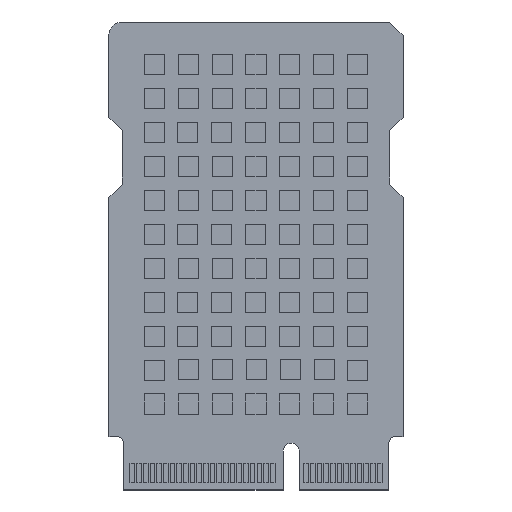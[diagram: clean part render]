
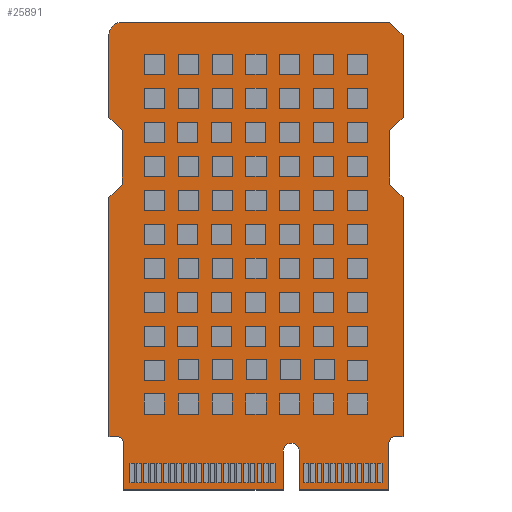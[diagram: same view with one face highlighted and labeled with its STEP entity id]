
A CAD part, top view. The second image highlights one B-rep face of the part: STEP entity #25891.
In plain terms, the highlighted planar face has unit normal (0, 0, 1).
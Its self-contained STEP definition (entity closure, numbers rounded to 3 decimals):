
#24954 = VERTEX_POINT('',#24955);
#24955 = CARTESIAN_POINT('',(146.25,-73.775,0.8));
#24961 = EDGE_CURVE('',#24954,#24962,#24964,.T.);
#24962 = VERTEX_POINT('',#24963);
#24963 = CARTESIAN_POINT('',(146.25,-79.895,0.8));
#24964 = LINE('',#24965,#24966);
#24965 = CARTESIAN_POINT('',(146.25,-73.775,0.8));
#24966 = VECTOR('',#24967,1.);
#24967 = DIRECTION('',(0.,-1.,0.));
#24992 = EDGE_CURVE('',#24962,#24993,#24995,.T.);
#24993 = VERTEX_POINT('',#24994);
#24994 = CARTESIAN_POINT('',(145.25,-80.895,0.8));
#24995 = LINE('',#24996,#24997);
#24996 = CARTESIAN_POINT('',(146.25,-79.895,0.8));
#24997 = VECTOR('',#24998,1.);
#24998 = DIRECTION('',(-0.707,-0.707,0.));
#25023 = EDGE_CURVE('',#24993,#25024,#25026,.T.);
#25024 = VERTEX_POINT('',#25025);
#25025 = CARTESIAN_POINT('',(145.25,-84.895,0.8));
#25026 = LINE('',#25027,#25028);
#25027 = CARTESIAN_POINT('',(145.25,-80.895,0.8));
#25028 = VECTOR('',#25029,1.);
#25029 = DIRECTION('',(0.,-1.,0.));
#25054 = EDGE_CURVE('',#25024,#25055,#25057,.T.);
#25055 = VERTEX_POINT('',#25056);
#25056 = CARTESIAN_POINT('',(146.25,-85.895,0.8));
#25057 = LINE('',#25058,#25059);
#25058 = CARTESIAN_POINT('',(145.25,-84.895,0.8));
#25059 = VECTOR('',#25060,1.);
#25060 = DIRECTION('',(0.707,-0.707,0.));
#25085 = EDGE_CURVE('',#25055,#25086,#25088,.T.);
#25086 = VERTEX_POINT('',#25087);
#25087 = CARTESIAN_POINT('',(146.25,-103.775,0.8));
#25088 = LINE('',#25089,#25090);
#25089 = CARTESIAN_POINT('',(146.25,-85.895,0.8));
#25090 = VECTOR('',#25091,1.);
#25091 = DIRECTION('',(0.,-1.,0.));
#25116 = EDGE_CURVE('',#25086,#25117,#25119,.T.);
#25117 = VERTEX_POINT('',#25118);
#25118 = CARTESIAN_POINT('',(145.675,-103.775,0.8));
#25119 = LINE('',#25120,#25121);
#25120 = CARTESIAN_POINT('',(146.25,-103.775,0.8));
#25121 = VECTOR('',#25122,1.);
#25122 = DIRECTION('',(-1.,0.,0.));
#25147 = EDGE_CURVE('',#25117,#25148,#25150,.T.);
#25148 = VERTEX_POINT('',#25149);
#25149 = CARTESIAN_POINT('',(145.609,-103.777,0.8));
#25150 = LINE('',#25151,#25152);
#25151 = CARTESIAN_POINT('',(145.675,-103.775,0.8));
#25152 = VECTOR('',#25153,1.);
#25153 = DIRECTION('',(-0.999,-0.033,0.));
#25178 = EDGE_CURVE('',#25148,#25179,#25181,.T.);
#25179 = VERTEX_POINT('',#25180);
#25180 = CARTESIAN_POINT('',(145.175,-104.275,0.8));
#25181 = CIRCLE('',#25182,0.498);
#25182 = AXIS2_PLACEMENT_3D('',#25183,#25184,#25185);
#25183 = CARTESIAN_POINT('',(145.673,-104.271,0.8));
#25184 = DIRECTION('',(0.,0.,1.));
#25185 = DIRECTION('',(-0.127,0.992,0.));
#25211 = EDGE_CURVE('',#25179,#25212,#25214,.T.);
#25212 = VERTEX_POINT('',#25213);
#25213 = CARTESIAN_POINT('',(145.175,-107.775,0.8));
#25214 = LINE('',#25215,#25216);
#25215 = CARTESIAN_POINT('',(145.175,-104.275,0.8));
#25216 = VECTOR('',#25217,1.);
#25217 = DIRECTION('',(0.,-1.,0.));
#25242 = EDGE_CURVE('',#25212,#25243,#25245,.T.);
#25243 = VERTEX_POINT('',#25244);
#25244 = CARTESIAN_POINT('',(138.475,-107.775,0.8));
#25245 = LINE('',#25246,#25247);
#25246 = CARTESIAN_POINT('',(145.175,-107.775,0.8));
#25247 = VECTOR('',#25248,1.);
#25248 = DIRECTION('',(-1.,0.,0.));
#25273 = EDGE_CURVE('',#25243,#25274,#25276,.T.);
#25274 = VERTEX_POINT('',#25275);
#25275 = CARTESIAN_POINT('',(138.475,-104.875,0.8));
#25276 = LINE('',#25277,#25278);
#25277 = CARTESIAN_POINT('',(138.475,-107.775,0.8));
#25278 = VECTOR('',#25279,1.);
#25279 = DIRECTION('',(0.,1.,0.));
#25304 = EDGE_CURVE('',#25274,#25305,#25307,.T.);
#25305 = VERTEX_POINT('',#25306);
#25306 = CARTESIAN_POINT('',(138.472,-104.796,0.8));
#25307 = LINE('',#25308,#25309);
#25308 = CARTESIAN_POINT('',(138.475,-104.875,0.8));
#25309 = VECTOR('',#25310,1.);
#25310 = DIRECTION('',(-0.033,0.999,0.));
#25335 = EDGE_CURVE('',#25305,#25336,#25338,.T.);
#25336 = VERTEX_POINT('',#25337);
#25337 = CARTESIAN_POINT('',(137.275,-104.875,0.8));
#25338 = CIRCLE('',#25339,0.601);
#25339 = AXIS2_PLACEMENT_3D('',#25340,#25341,#25342);
#25340 = CARTESIAN_POINT('',(137.876,-104.874,0.8));
#25341 = DIRECTION('',(0.,0.,1.));
#25342 = DIRECTION('',(0.992,0.128,-0.));
#25368 = EDGE_CURVE('',#25336,#25369,#25371,.T.);
#25369 = VERTEX_POINT('',#25370);
#25370 = CARTESIAN_POINT('',(137.275,-107.775,0.8));
#25371 = LINE('',#25372,#25373);
#25372 = CARTESIAN_POINT('',(137.275,-104.875,0.8));
#25373 = VECTOR('',#25374,1.);
#25374 = DIRECTION('',(0.,-1.,0.));
#25399 = EDGE_CURVE('',#25369,#25400,#25402,.T.);
#25400 = VERTEX_POINT('',#25401);
#25401 = CARTESIAN_POINT('',(135.25,-107.775,0.8));
#25402 = LINE('',#25403,#25404);
#25403 = CARTESIAN_POINT('',(137.275,-107.775,0.8));
#25404 = VECTOR('',#25405,1.);
#25405 = DIRECTION('',(-1.,0.,0.));
#25430 = EDGE_CURVE('',#25400,#25431,#25433,.T.);
#25431 = VERTEX_POINT('',#25432);
#25432 = CARTESIAN_POINT('',(125.325,-107.775,0.8));
#25433 = LINE('',#25434,#25435);
#25434 = CARTESIAN_POINT('',(135.25,-107.775,0.8));
#25435 = VECTOR('',#25436,1.);
#25436 = DIRECTION('',(-1.,0.,0.));
#25461 = EDGE_CURVE('',#25431,#25462,#25464,.T.);
#25462 = VERTEX_POINT('',#25463);
#25463 = CARTESIAN_POINT('',(125.325,-104.275,0.8));
#25464 = LINE('',#25465,#25466);
#25465 = CARTESIAN_POINT('',(125.325,-107.775,0.8));
#25466 = VECTOR('',#25467,1.);
#25467 = DIRECTION('',(0.,1.,0.));
#25492 = EDGE_CURVE('',#25462,#25493,#25495,.T.);
#25493 = VERTEX_POINT('',#25494);
#25494 = CARTESIAN_POINT('',(125.323,-104.209,0.8));
#25495 = LINE('',#25496,#25497);
#25496 = CARTESIAN_POINT('',(125.325,-104.275,0.8));
#25497 = VECTOR('',#25498,1.);
#25498 = DIRECTION('',(-0.033,0.999,0.));
#25523 = EDGE_CURVE('',#25493,#25524,#25526,.T.);
#25524 = VERTEX_POINT('',#25525);
#25525 = CARTESIAN_POINT('',(124.825,-103.775,0.8));
#25526 = CIRCLE('',#25527,0.498);
#25527 = AXIS2_PLACEMENT_3D('',#25528,#25529,#25530);
#25528 = CARTESIAN_POINT('',(124.829,-104.273,0.8));
#25529 = DIRECTION('',(0.,0.,1.));
#25530 = DIRECTION('',(0.992,0.127,-0.));
#25556 = EDGE_CURVE('',#25524,#25557,#25559,.T.);
#25557 = VERTEX_POINT('',#25558);
#25558 = CARTESIAN_POINT('',(124.25,-103.775,0.8));
#25559 = LINE('',#25560,#25561);
#25560 = CARTESIAN_POINT('',(124.825,-103.775,0.8));
#25561 = VECTOR('',#25562,1.);
#25562 = DIRECTION('',(-1.,0.,0.));
#25587 = EDGE_CURVE('',#25557,#25588,#25590,.T.);
#25588 = VERTEX_POINT('',#25589);
#25589 = CARTESIAN_POINT('',(124.25,-85.895,0.8));
#25590 = LINE('',#25591,#25592);
#25591 = CARTESIAN_POINT('',(124.25,-103.775,0.8));
#25592 = VECTOR('',#25593,1.);
#25593 = DIRECTION('',(0.,1.,0.));
#25618 = EDGE_CURVE('',#25588,#25619,#25621,.T.);
#25619 = VERTEX_POINT('',#25620);
#25620 = CARTESIAN_POINT('',(125.25,-84.895,0.8));
#25621 = LINE('',#25622,#25623);
#25622 = CARTESIAN_POINT('',(124.25,-85.895,0.8));
#25623 = VECTOR('',#25624,1.);
#25624 = DIRECTION('',(0.707,0.707,0.));
#25649 = EDGE_CURVE('',#25619,#25650,#25652,.T.);
#25650 = VERTEX_POINT('',#25651);
#25651 = CARTESIAN_POINT('',(125.25,-80.895,0.8));
#25652 = LINE('',#25653,#25654);
#25653 = CARTESIAN_POINT('',(125.25,-84.895,0.8));
#25654 = VECTOR('',#25655,1.);
#25655 = DIRECTION('',(0.,1.,0.));
#25680 = EDGE_CURVE('',#25650,#25681,#25683,.T.);
#25681 = VERTEX_POINT('',#25682);
#25682 = CARTESIAN_POINT('',(124.25,-79.895,0.8));
#25683 = LINE('',#25684,#25685);
#25684 = CARTESIAN_POINT('',(125.25,-80.895,0.8));
#25685 = VECTOR('',#25686,1.);
#25686 = DIRECTION('',(-0.707,0.707,0.));
#25711 = EDGE_CURVE('',#25681,#25712,#25714,.T.);
#25712 = VERTEX_POINT('',#25713);
#25713 = CARTESIAN_POINT('',(124.25,-73.775,0.8));
#25714 = LINE('',#25715,#25716);
#25715 = CARTESIAN_POINT('',(124.25,-79.895,0.8));
#25716 = VECTOR('',#25717,1.);
#25717 = DIRECTION('',(0.,1.,0.));
#25742 = EDGE_CURVE('',#25712,#25743,#25745,.T.);
#25743 = VERTEX_POINT('',#25744);
#25744 = CARTESIAN_POINT('',(124.252,-73.677,0.8));
#25745 = LINE('',#25746,#25747);
#25746 = CARTESIAN_POINT('',(124.25,-73.775,0.8));
#25747 = VECTOR('',#25748,1.);
#25748 = DIRECTION('',(0.024,1.,0.));
#25773 = EDGE_CURVE('',#25743,#25774,#25776,.T.);
#25774 = VERTEX_POINT('',#25775);
#25775 = CARTESIAN_POINT('',(125.25,-72.775,0.8));
#25776 = CIRCLE('',#25777,0.998);
#25777 = AXIS2_PLACEMENT_3D('',#25778,#25779,#25780);
#25778 = CARTESIAN_POINT('',(125.246,-73.773,0.8));
#25779 = DIRECTION('',(0.,0.,-1.));
#25780 = DIRECTION('',(-0.995,0.096,0.));
#25806 = EDGE_CURVE('',#25774,#25807,#25809,.T.);
#25807 = VERTEX_POINT('',#25808);
#25808 = CARTESIAN_POINT('',(145.25,-72.775,0.8));
#25809 = LINE('',#25810,#25811);
#25810 = CARTESIAN_POINT('',(125.25,-72.775,0.8));
#25811 = VECTOR('',#25812,1.);
#25812 = DIRECTION('',(1.,0.,0.));
#25837 = EDGE_CURVE('',#25807,#24954,#25838,.T.);
#25838 = LINE('',#25839,#25840);
#25839 = CARTESIAN_POINT('',(145.25,-72.775,0.8));
#25840 = VECTOR('',#25841,1.);
#25841 = DIRECTION('',(0.707,-0.707,0.));
#25891 = ADVANCED_FACE('',(#25892),#25923,.T.);
#25892 = FACE_BOUND('',#25893,.F.);
#25893 = EDGE_LOOP('',(#25894,#25895,#25896,#25897,#25898,#25899,#25900,
    #25901,#25902,#25903,#25904,#25905,#25906,#25907,#25908,#25909,
    #25910,#25911,#25912,#25913,#25914,#25915,#25916,#25917,#25918,
    #25919,#25920,#25921,#25922));
#25894 = ORIENTED_EDGE('',*,*,#24961,.T.);
#25895 = ORIENTED_EDGE('',*,*,#24992,.T.);
#25896 = ORIENTED_EDGE('',*,*,#25023,.T.);
#25897 = ORIENTED_EDGE('',*,*,#25054,.T.);
#25898 = ORIENTED_EDGE('',*,*,#25085,.T.);
#25899 = ORIENTED_EDGE('',*,*,#25116,.T.);
#25900 = ORIENTED_EDGE('',*,*,#25147,.T.);
#25901 = ORIENTED_EDGE('',*,*,#25178,.T.);
#25902 = ORIENTED_EDGE('',*,*,#25211,.T.);
#25903 = ORIENTED_EDGE('',*,*,#25242,.T.);
#25904 = ORIENTED_EDGE('',*,*,#25273,.T.);
#25905 = ORIENTED_EDGE('',*,*,#25304,.T.);
#25906 = ORIENTED_EDGE('',*,*,#25335,.T.);
#25907 = ORIENTED_EDGE('',*,*,#25368,.T.);
#25908 = ORIENTED_EDGE('',*,*,#25399,.T.);
#25909 = ORIENTED_EDGE('',*,*,#25430,.T.);
#25910 = ORIENTED_EDGE('',*,*,#25461,.T.);
#25911 = ORIENTED_EDGE('',*,*,#25492,.T.);
#25912 = ORIENTED_EDGE('',*,*,#25523,.T.);
#25913 = ORIENTED_EDGE('',*,*,#25556,.T.);
#25914 = ORIENTED_EDGE('',*,*,#25587,.T.);
#25915 = ORIENTED_EDGE('',*,*,#25618,.T.);
#25916 = ORIENTED_EDGE('',*,*,#25649,.T.);
#25917 = ORIENTED_EDGE('',*,*,#25680,.T.);
#25918 = ORIENTED_EDGE('',*,*,#25711,.T.);
#25919 = ORIENTED_EDGE('',*,*,#25742,.T.);
#25920 = ORIENTED_EDGE('',*,*,#25773,.T.);
#25921 = ORIENTED_EDGE('',*,*,#25806,.T.);
#25922 = ORIENTED_EDGE('',*,*,#25837,.T.);
#25923 = PLANE('',#25924);
#25924 = AXIS2_PLACEMENT_3D('',#25925,#25926,#25927);
#25925 = CARTESIAN_POINT('',(0.,0.,0.8));
#25926 = DIRECTION('',(0.,0.,1.));
#25927 = DIRECTION('',(1.,0.,-0.));
